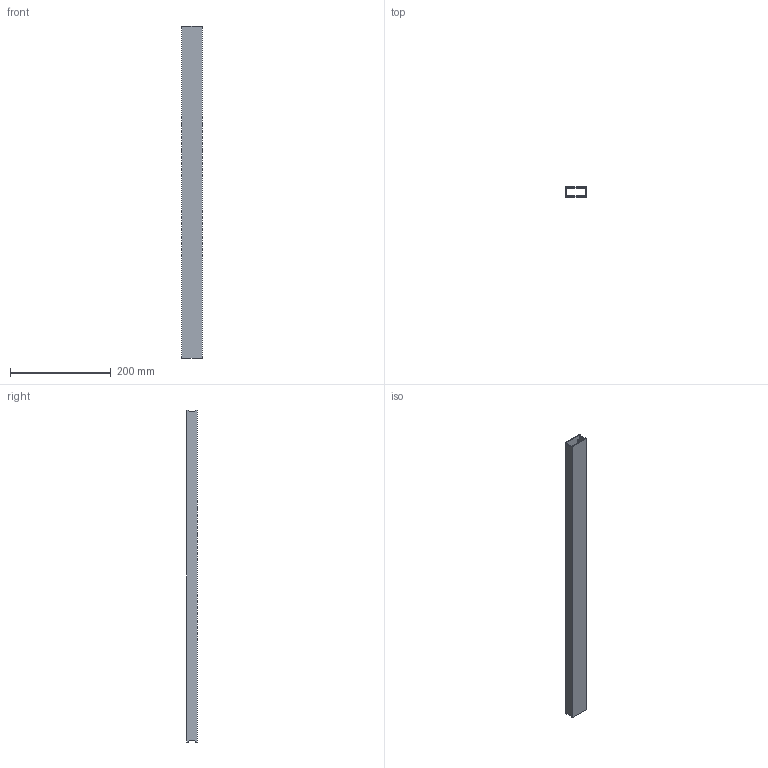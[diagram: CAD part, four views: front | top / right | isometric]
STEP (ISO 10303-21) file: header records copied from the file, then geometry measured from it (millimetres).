
FILE_DESCRIPTION (( 'STEP AP203' ), '1' );
FILE_NAME ('MILADESIGN profil stolového rámu G5 ST541 - 76_217996 a 219116 a 219620 a 220126_3D.STEP', '2021-01-05T13:14:36', ( '' ), ( '' ), 'SwSTEP 2.0', 'SolidWorks 2019', '' );
FILE_SCHEMA (( 'CONFIG_CONTROL_DESIGN' ));
Length unit declared in the file: millimetre
Products named in the file (1): MILADESIGN profil stolového rámu G5 ST541 - 76_217996 a 219116 a 219620 a 220126_3D
Bounding box: 40 x 20 x 660 mm (x, y, z)
Volume: 111896.2 mm3; surface area: 150025.7 mm2
Topology: 1 solids, 1 shells, 48 faces, 144 edges, 96 vertices
Faces by surface type: plane 44, cylinder 4
Entity records: 1709 total; most frequent: CARTESIAN_POINT 289, ORIENTED_EDGE 288, DIRECTION 250, EDGE_CURVE 144, VECTOR 136, LINE 136, VERTEX_POINT 96, EDGE_LOOP 64
